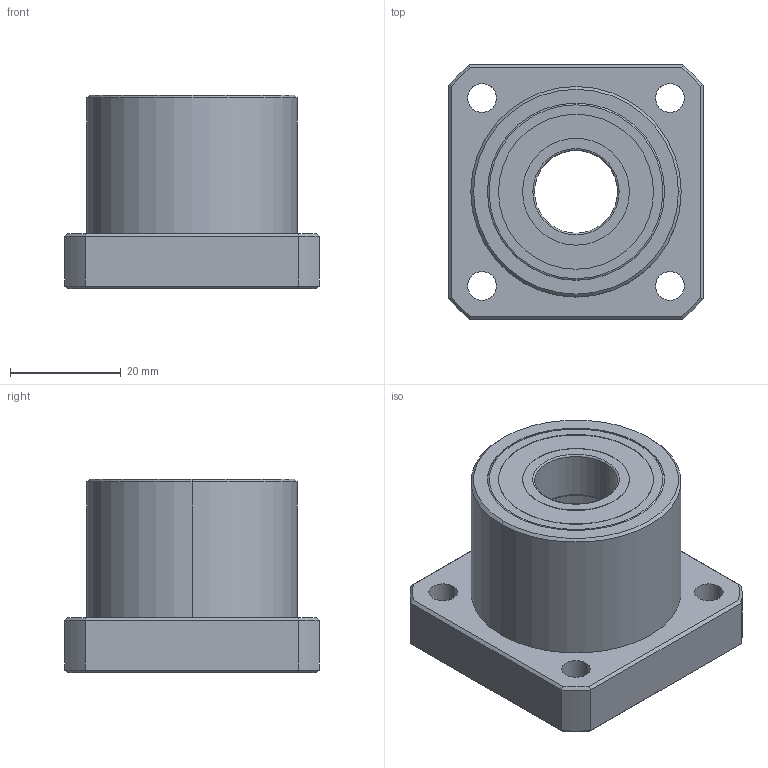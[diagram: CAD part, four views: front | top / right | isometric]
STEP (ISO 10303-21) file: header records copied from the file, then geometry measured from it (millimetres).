
FILE_DESCRIPTION (( 'STEP AP203' ), '1' );
FILE_NAME ('SBD-15.STEP', '2013-07-25T10:49:40', ( 'MYCOM' ), ( '' ), 'SwSTEP 2.0', 'SolidWorks 2012', '' );
FILE_SCHEMA (( 'CONFIG_CONTROL_DESIGN' ));
Length unit declared in the file: millimetre
Products named in the file (1): SBD-15
Bounding box: 46 x 46 x 35 mm (x, y, z)
Surface area: 22600.5 mm2 (no closed solid volume)
Topology: 0 solids, 31 shells, 211 faces, 530 edges, 352 vertices
Faces by surface type: cylinder 84, plane 45, sphere 44, torus 28, cone 10
Entity records: 8111 total; most frequent: CARTESIAN_POINT 3470, DIRECTION 1078, ORIENTED_EDGE 808, AXIS2_PLACEMENT_3D 486, EDGE_CURVE 420, VERTEX_POINT 286, CIRCLE 274, EDGE_LOOP 252
